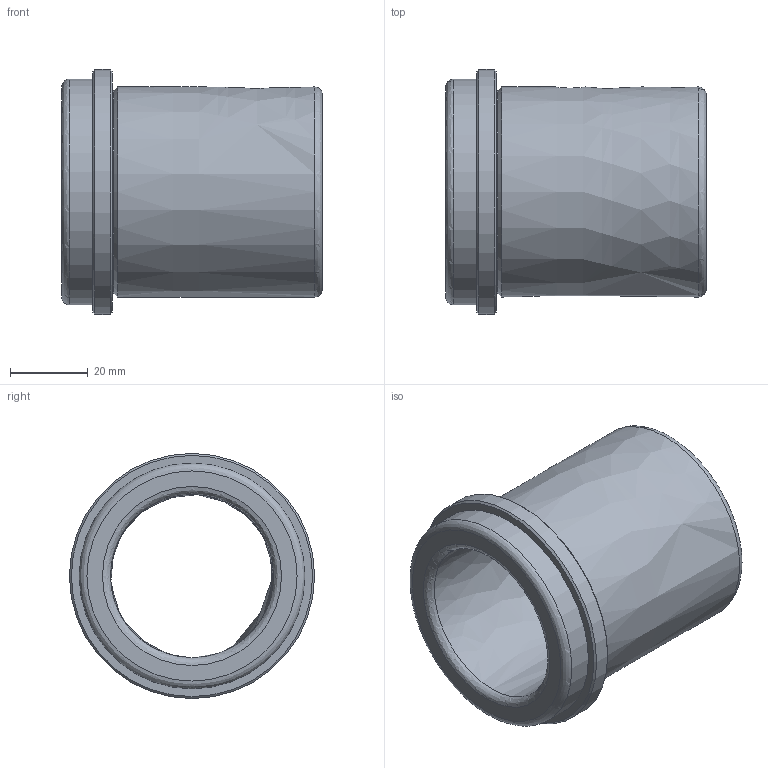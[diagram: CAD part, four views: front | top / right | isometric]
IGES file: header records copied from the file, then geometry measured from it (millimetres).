
Start section: Data from Parasolid IGES Translator 20.0.26, Copyright(c) 2006 Siemens P LM Software. All Rights Reserved.
Global section: file name: WZ - 4032 42 x 67.igs; native system: By Siemens PLM Incorporated; preprocessor: XPlus GENERIC/IGES 20.0.26; author: Noname; organization: Noname; date: 20201203.204255; units: millimetre
Bounding box: 67 x 63 x 63 mm (x, y, z)
Surface area: 23783.9 mm2 (no closed solid volume)
Topology: 0 solids, 0 shells, 19 faces, 70 edges, 48 vertices
Faces by surface type: revolution 14, extrusion 5
